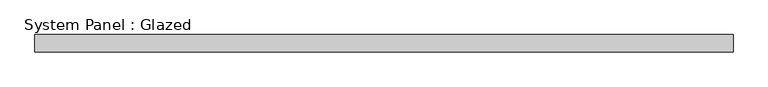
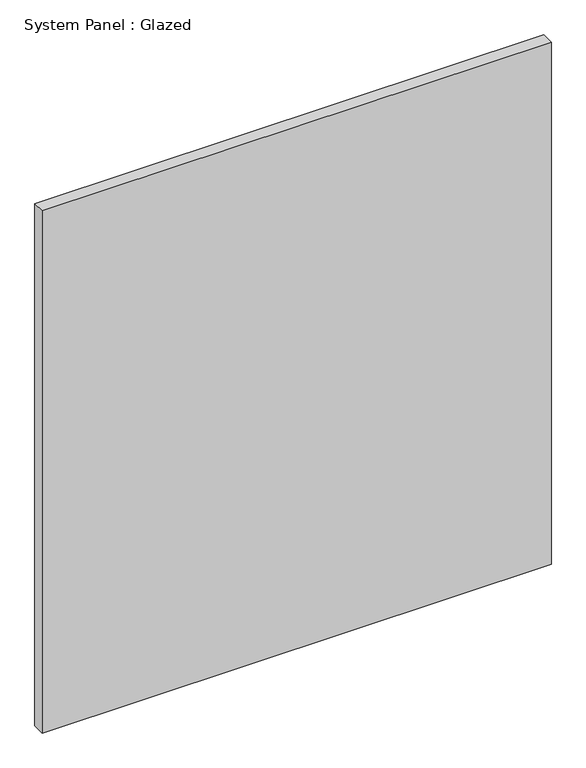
"""IFC4 building model written with IfcOpenShell, lengths in millimetres: plate geometry, System Panel : Glazed."""

from ifc_helpers import new_model, si_unit, origin, origin_with_axes, place, context, project, spatial, polyline, outline, extrude, source, transform, mapped, element, save


def system_panel_glazed_32064c29(model_context):
    return source(origin(), model_context, "Body", "SweptSolid", [
        extrude(outline(polyline([(518.432143, 19.05), (-518.432143, 19.05), (-518.432143, 44.45), (518.432143, 44.45), (518.432143, 19.05)])), origin_with_axes(), (0.0, 0.0, 1.0), 1123.95),
    ])


if __name__ == "__main__":
    model = new_model("IFC4")
    model_context = context("Model", 3, world=origin())
    ifc_project = project(units=[si_unit("LENGTHUNIT", "METRE", prefix="MILLI")], contexts=[model_context])
    site = spatial("IfcSite", under=ifc_project)
    building = spatial("IfcBuilding", under=site)
    placement = place(None, origin())
    system_panel_glazed_shape = system_panel_glazed_32064c29(model_context)
    element("IfcPlate", 1, ObjectType="System Panel : Glazed", at=placement, inside=building, context=model_context, shape_type="MappedRepresentation", body=[
        mapped(system_panel_glazed_shape, transform((0.0, 0.0, 0.0), x_axis=(1.0, 0.0, 0.0), y_axis=(0.0, 1.0, 0.0), z_axis=(0.0, 0.0, 1.0))),
    ])
    save(model, "model.ifc")
